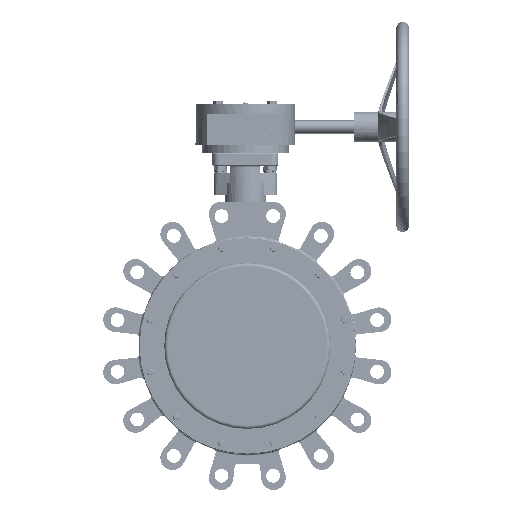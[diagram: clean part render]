
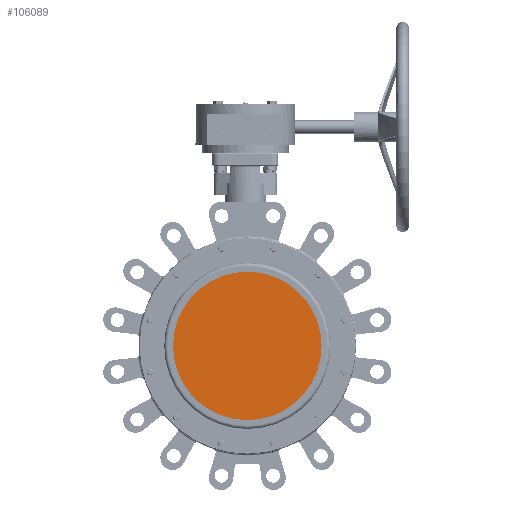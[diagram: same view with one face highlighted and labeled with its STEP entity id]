
A CAD part, front view. The second image highlights one B-rep face of the part: STEP entity #106089.
In plain terms, the highlighted planar face has unit normal (0, -1, 0).
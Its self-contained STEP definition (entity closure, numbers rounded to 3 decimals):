
#105837 = CYLINDRICAL_SURFACE('',#105838,4.216);
#105838 = AXIS2_PLACEMENT_3D('',#105839,#105840,#105841);
#105839 = CARTESIAN_POINT('',(-52.054,91.984,320.552));
#105840 = DIRECTION('',(0.,1.,0.));
#105841 = DIRECTION('',(0.,0.,1.));
#106039 = EDGE_CURVE('',#106040,#106040,#106042,.T.);
#106040 = VERTEX_POINT('',#106041);
#106041 = CARTESIAN_POINT('',(-47.839,91.984,320.552));
#106042 = SURFACE_CURVE('',#106043,(#106048,#106055),.PCURVE_S1.);
#106043 = CIRCLE('',#106044,4.216);
#106044 = AXIS2_PLACEMENT_3D('',#106045,#106046,#106047);
#106045 = CARTESIAN_POINT('',(-52.054,91.984,320.552));
#106046 = DIRECTION('',(0.,1.,0.));
#106047 = DIRECTION('',(1.,0.,0.));
#106048 = PCURVE('',#105837,#106049);
#106049 = DEFINITIONAL_REPRESENTATION('',(#106050),#106054);
#106050 = LINE('',#106051,#106052);
#106051 = CARTESIAN_POINT('',(1.571,0.));
#106052 = VECTOR('',#106053,1.);
#106053 = DIRECTION('',(1.,0.));
#106054 = ( GEOMETRIC_REPRESENTATION_CONTEXT(2) 
PARAMETRIC_REPRESENTATION_CONTEXT() REPRESENTATION_CONTEXT('2D SPACE',''
  ) );
#106055 = PCURVE('',#106056,#106061);
#106056 = PLANE('',#106057);
#106057 = AXIS2_PLACEMENT_3D('',#106058,#106059,#106060);
#106058 = CARTESIAN_POINT('',(-52.054,91.984,320.552));
#106059 = DIRECTION('',(0.,1.,0.));
#106060 = DIRECTION('',(0.,0.,1.));
#106061 = DEFINITIONAL_REPRESENTATION('',(#106062),#106066);
#106062 = CIRCLE('',#106063,4.216);
#106063 = AXIS2_PLACEMENT_2D('',#106064,#106065);
#106064 = CARTESIAN_POINT('',(0.,0.));
#106065 = DIRECTION('',(0.,1.));
#106066 = ( GEOMETRIC_REPRESENTATION_CONTEXT(2) 
PARAMETRIC_REPRESENTATION_CONTEXT() REPRESENTATION_CONTEXT('2D SPACE',''
  ) );
#106089 = ADVANCED_FACE('',(#106090),#106056,.F.);
#106090 = FACE_BOUND('',#106091,.T.);
#106091 = EDGE_LOOP('',(#106092));
#106092 = ORIENTED_EDGE('',*,*,#106039,.F.);
